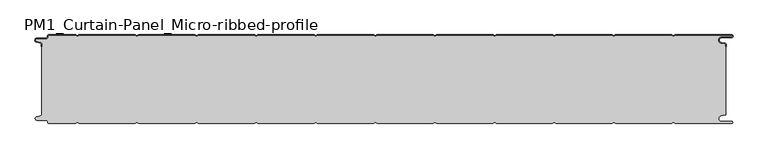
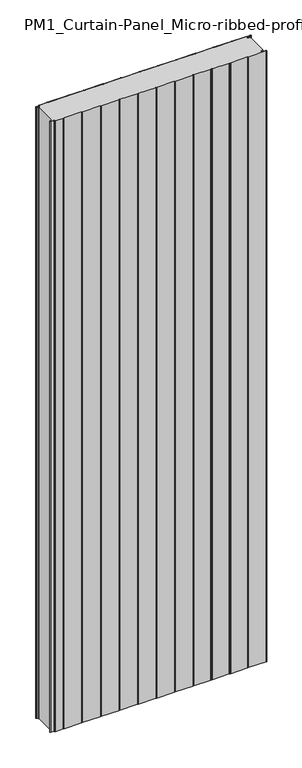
"""IFC4 building model written with IfcOpenShell, lengths in millimetres: plate geometry, PM1_Curtain-Panel_Micro-ribbed-profile : ACH_PM1_Acoustic-Sectioning-Panel_150M."""

from ifc_helpers import new_model, si_unit, point, frame, frame_2d, origin, origin_with_axes, place, context, project, spatial, polyline, circle_curve, trimmed, segment, composite_curve, outline, extrude, source, transform, mapped, element, save
from ifc_brep_helpers import plane_surface, cylinder_surface, revolved_surface, advanced_brep


def pm1_curtain_panel_micro_ribbed_profile_428cde19(model_context):
    return source(origin(), model_context, "Body", "SolidModel", [
        advanced_brep(
        [(-575.0, -15.878557, 3500.0), (-575.0, -20.0, 3500.0), (-574.2, -20.0, 3500.0), (-574.2, -15.878557, 3500.0), (-576.370137, -13.1503208, 3500.0), (-582.529863, -11.728236, 3500.0), (-581.9, -6.2, 3500.0), (-566.4, -6.2, 3500.0), (-563.6, -3.4, 3500.0), (-563.6, -2.0, 3500.0), (-562.4, -0.8, 3500.0), (-517.3143588, -0.8, 3500.0), (-514.4, -2.482606, 3500.0), (-511.4856412, -0.8, 3500.0), (-417.3143588, -0.8, 3500.0), (-414.4, -2.482606, 3500.0), (-411.4856412, -0.8, 3500.0), (-317.3143588, -0.8, 3500.0), (-314.4, -2.482606, 3500.0), (-311.4856412, -0.8, 3500.0), (-217.3143588, -0.8, 3500.0), (-214.4, -2.482606, 3500.0), (-211.4856412, -0.8, 3500.0), (-117.3143588, -0.8, 3500.0), (-114.4, -2.482606, 3500.0), (-111.4856412, -0.8, 3500.0), (-17.3143588, -0.8, 3500.0), (-14.4, -2.482606, 3500.0), (-11.4856412, -0.8, 3500.0), (82.6856412, -0.8, 3500.0), (85.6, -2.482606, 3500.0), (88.5143588, -0.8, 3500.0), (182.6856412, -0.8, 3500.0), (185.6, -2.482606, 3500.0), (188.5143588, -0.8, 3500.0), (282.6856412, -0.8, 3500.0), (285.6, -2.482606, 3500.0), (288.5143588, -0.8, 3500.0), (382.6856412, -0.8, 3500.0), (385.6, -2.482606, 3500.0), (388.5143588, -0.8, 3500.0), (482.6856412, -0.8, 3500.0), (485.6, -2.482606, 3500.0), (488.5143588, -0.8, 3500.0), (583.1, -0.8, 3500.0), (583.1, -4.2, 3500.0), (566.1, -4.2, 3500.0), (565.2664884, -13.7270771, 3500.0), (571.7125669, -14.8636953, 3500.0), (573.2, -16.6363492, 3500.0), (573.2, -20.0, 3500.0), (574.0, -20.0, 3500.0), (574.0, -16.6363492, 3500.0), (571.8514855, -14.0758491, 3500.0), (565.405407, -12.939231, 3500.0), (566.1, -5.0, 3500.0), (583.1, -5.0, 3500.0), (585.6, -2.5, 3500.0), (583.1, 0.0, 3500.0), (488.2999995, 0.0, 3500.0), (485.6, -1.5588455, 3500.0), (482.9000005, 0.0, 3500.0), (388.2999995, 0.0, 3500.0), (385.6, -1.5588455, 3500.0), (382.9000005, 0.0, 3500.0), (288.2999995, 0.0, 3500.0), (285.6, -1.5588455, 3500.0), (282.9000005, 0.0, 3500.0), (188.2999995, 0.0, 3500.0), (185.6, -1.5588455, 3500.0), (182.9000005, 0.0, 3500.0), (88.2999995, 0.0, 3500.0), (85.6, -1.5588455, 3500.0), (82.9000005, 0.0, 3500.0), (-11.7000005, 0.0, 3500.0), (-14.4, -1.5588455, 3500.0), (-17.0999995, 0.0, 3500.0), (-111.7000005, 0.0, 3500.0), (-114.4, -1.5588455, 3500.0), (-117.0999995, 0.0, 3500.0), (-211.7000005, 0.0, 3500.0), (-214.4, -1.5588455, 3500.0), (-217.0999995, 0.0, 3500.0), (-311.7000005, 0.0, 3500.0), (-314.4, -1.5588455, 3500.0), (-317.0999995, 0.0, 3500.0), (-411.7000005, 0.0, 3500.0), (-414.4, -1.5588455, 3500.0), (-417.0999995, 0.0, 3500.0), (-511.7000005, 0.0, 3500.0), (-514.4, -1.5588455, 3500.0), (-517.0999995, 0.0, 3500.0), (-562.4, 0.0, 3500.0), (-564.4, -2.0, 3500.0), (-564.4, -3.4, 3500.0), (-566.4, -5.4, 3500.0), (-581.9, -5.4, 3500.0), (-582.7098239, -12.5077322, 3500.0), (-576.5500979, -13.929817, 3500.0), (-575.0, -15.878557, 0.0), (-576.5500978, -13.9298169, 0.0), (-582.7098239, -12.507732, 0.0), (-581.9, -5.4, 0.0), (-566.4, -5.4, 0.0), (-564.4, -3.4, 0.0), (-564.4, -2.0, 0.0), (-562.4, 0.0, 0.0), (-517.0999995, 0.0, 0.0), (-514.4, -1.5588455, 0.0), (-511.7000005, 0.0, 0.0), (-417.0999995, 0.0, 0.0), (-414.4, -1.5588455, 0.0), (-411.7000005, 0.0, 0.0), (-317.0999995, 0.0, 0.0), (-314.4, -1.5588455, 0.0), (-311.7000005, 0.0, 0.0), (-217.0999995, 0.0, 0.0), (-214.4, -1.5588455, 0.0), (-211.7000005, 0.0, 0.0), (-117.0999995, 0.0, 0.0), (-114.4, -1.5588455, 0.0), (-111.7000005, 0.0, 0.0), (-17.0999995, 0.0, 0.0), (-14.4, -1.5588455, 0.0), (-11.7000005, 0.0, 0.0), (82.9000005, 0.0, 0.0), (85.6, -1.5588455, 0.0), (88.2999995, 0.0, 0.0), (182.9000005, 0.0, 0.0), (185.6, -1.5588455, 0.0), (188.2999995, 0.0, 0.0), (282.9000005, 0.0, 0.0), (285.6, -1.5588455, 0.0), (288.2999995, 0.0, 0.0), (382.9000005, 0.0, 0.0), (385.6, -1.5588455, 0.0), (388.2999995, 0.0, 0.0), (482.9000005, 0.0, 0.0), (485.6, -1.5588455, 0.0), (488.2999995, 0.0, 0.0), (583.1, 0.0, 0.0), (585.6, -2.5, 0.0), (583.1, -5.0, 0.0), (566.1, -5.0, 0.0), (565.405407, -12.939231, 0.0), (571.8514855, -14.0758491, 0.0), (574.0, -16.6363492, 0.0), (574.0, -20.0, 0.0), (573.2, -20.0, 0.0), (573.2, -16.6363492, 0.0), (571.7125669, -14.8636953, 0.0), (565.2664884, -13.7270772, 0.0), (566.1, -4.2, 0.0), (583.1, -4.2, 0.0), (583.1, -0.8, 0.0), (488.5143588, -0.8, 0.0), (485.6, -2.482606, 0.0), (482.6856412, -0.8, 0.0), (388.5143588, -0.8, 0.0), (385.6, -2.482606, 0.0), (382.6856412, -0.8, 0.0), (288.5143588, -0.8, 0.0), (285.6, -2.482606, 0.0), (282.6856412, -0.8, 0.0), (188.5143588, -0.8, 0.0), (185.6, -2.482606, 0.0), (182.6856412, -0.8, 0.0), (88.5143588, -0.8, 0.0), (85.6, -2.482606, 0.0), (82.6856412, -0.8, 0.0), (-11.4856412, -0.8, 0.0), (-14.4, -2.482606, 0.0), (-17.3143588, -0.8, 0.0), (-111.4856412, -0.8, 0.0), (-114.4, -2.482606, 0.0), (-117.3143588, -0.8, 0.0), (-211.4856412, -0.8, 0.0), (-214.4, -2.482606, 0.0), (-217.3143588, -0.8, 0.0), (-311.4856412, -0.8, 0.0), (-314.4, -2.482606, 0.0), (-317.3143588, -0.8, 0.0), (-411.4856412, -0.8, 0.0), (-414.4, -2.482606, 0.0), (-417.3143588, -0.8, 0.0), (-511.4856412, -0.8, 0.0), (-514.4, -2.482606, 0.0), (-517.3143588, -0.8, 0.0), (-562.4, -0.8, 0.0), (-563.6, -2.0, 0.0), (-563.6, -3.4, 0.0), (-566.4, -6.2, 0.0), (-581.9, -6.2, 0.0), (-582.529863, -11.7282362, 0.0), (-576.370137, -13.150321, 0.0), (-574.2, -15.878557, 0.0), (-574.2, -20.0, 0.0), (-575.0, -20.0, 0.0)],
        [
            (0, 1),
            (1, 2),
            (2, 3),
            (3, 4, circle_curve(frame((-577.0, -15.878557, 3500.0), z_axis=(0.0, 0.0, 1.0), x_axis=(1.0, 0.0, 0.0)), 2.8)),
            (4, 5),
            (5, 6, circle_curve(frame((-581.9, -9.0, 3500.0), z_axis=(0.0, 0.0, -1.0), x_axis=(1.0, 0.0, 0.0)), 2.8)),
            (6, 7),
            (7, 8, circle_curve(frame((-566.4, -3.4, 3500.0), z_axis=(0.0, 0.0, 1.0), x_axis=(1.0, 0.0, 0.0)), 2.8)),
            (8, 9),
            (9, 10, circle_curve(frame((-562.4, -2.0, 3500.0), z_axis=(0.0, 0.0, -1.0), x_axis=(1.0, 0.0, 0.0)), 1.2)),
            (10, 11),
            (11, 12),
            (12, 13),
            (13, 14),
            (14, 15),
            (15, 16),
            (16, 17),
            (17, 18),
            (18, 19),
            (19, 20),
            (20, 21),
            (21, 22),
            (22, 23),
            (23, 24),
            (24, 25),
            (25, 26),
            (26, 27),
            (27, 28),
            (28, 29),
            (29, 30),
            (30, 31),
            (31, 32),
            (32, 33),
            (33, 34),
            (34, 35),
            (35, 36),
            (36, 37),
            (37, 38),
            (38, 39),
            (39, 40),
            (40, 41),
            (41, 42),
            (42, 43),
            (43, 44),
            (44, 45, circle_curve(frame((583.1, -2.5, 3500.0), z_axis=(0.0, 0.0, -1.0), x_axis=(1.0, 0.0, 0.0)), 1.7)),
            (45, 46),
            (46, 47, circle_curve(frame((566.1, -9.0, 3500.0), z_axis=(0.0, 0.0, 1.0), x_axis=(1.0, 0.0, 0.0)), 4.8)),
            (47, 48),
            (48, 49, circle_curve(frame((571.4, -16.6363492, 3500.0), z_axis=(0.0, 0.0, -1.0), x_axis=(1.0, 0.0, 0.0)), 1.8)),
            (49, 50),
            (50, 51),
            (51, 52),
            (52, 53, circle_curve(frame((571.4, -16.6363492, 3500.0), z_axis=(0.0, 0.0, 1.0), x_axis=(1.0, 0.0, 0.0)), 2.6)),
            (53, 54),
            (54, 55, circle_curve(frame((566.1, -9.0, 3500.0), z_axis=(0.0, 0.0, -1.0), x_axis=(1.0, 0.0, 0.0)), 4.0)),
            (55, 56),
            (56, 57, circle_curve(frame((583.1, -2.5, 3500.0), z_axis=(0.0, 0.0, 1.0), x_axis=(1.0, 0.0, 0.0)), 2.5)),
            (57, 58, circle_curve(frame((583.1, -2.5, 3500.0), z_axis=(0.0, 0.0, 1.0), x_axis=(1.0, 0.0, 0.0)), 2.5)),
            (58, 59),
            (59, 60),
            (60, 61),
            (61, 62),
            (62, 63),
            (63, 64),
            (64, 65),
            (65, 66),
            (66, 67),
            (67, 68),
            (68, 69),
            (69, 70),
            (70, 71),
            (71, 72),
            (72, 73),
            (73, 74),
            (74, 75),
            (75, 76),
            (76, 77),
            (77, 78),
            (78, 79),
            (79, 80),
            (80, 81),
            (81, 82),
            (82, 83),
            (83, 84),
            (84, 85),
            (85, 86),
            (86, 87),
            (87, 88),
            (88, 89),
            (89, 90),
            (90, 91),
            (91, 92),
            (92, 93, circle_curve(frame((-562.4, -2.0, 3500.0), z_axis=(0.0, 0.0, 1.0), x_axis=(1.0, 0.0, 0.0)), 2.0)),
            (93, 94),
            (94, 95, circle_curve(frame((-566.4, -3.4, 3500.0), z_axis=(0.0, 0.0, -1.0), x_axis=(1.0, 0.0, 0.0)), 2.0)),
            (95, 96),
            (96, 97, circle_curve(frame((-581.9, -9.0, 3500.0), z_axis=(0.0, 0.0, 1.0), x_axis=(1.0, 0.0, 0.0)), 3.6)),
            (97, 98),
            (98, 0, circle_curve(frame((-577.0, -15.878557, 3500.0), z_axis=(0.0, 0.0, -1.0), x_axis=(1.0, 0.0, 0.0)), 2.0)),
            (99, 100, circle_curve(frame((-577.0, -15.878557, 0.0), z_axis=(0.0, 0.0, 1.0), x_axis=(1.0, 0.0, 0.0)), 2.0)),
            (100, 101),
            (101, 102, circle_curve(frame((-581.9, -9.0, 0.0), z_axis=(0.0, 0.0, -1.0), x_axis=(1.0, 0.0, 0.0)), 3.6)),
            (102, 103),
            (103, 104, circle_curve(frame((-566.4, -3.4, 0.0), z_axis=(0.0, 0.0, 1.0), x_axis=(1.0, 0.0, 0.0)), 2.0)),
            (104, 105),
            (105, 106, circle_curve(frame((-562.4, -2.0, 0.0), z_axis=(0.0, 0.0, -1.0), x_axis=(1.0, 0.0, 0.0)), 2.0)),
            (106, 107),
            (107, 108),
            (108, 109),
            (109, 110),
            (110, 111),
            (111, 112),
            (112, 113),
            (113, 114),
            (114, 115),
            (115, 116),
            (116, 117),
            (117, 118),
            (118, 119),
            (119, 120),
            (120, 121),
            (121, 122),
            (122, 123),
            (123, 124),
            (124, 125),
            (125, 126),
            (126, 127),
            (127, 128),
            (128, 129),
            (129, 130),
            (130, 131),
            (131, 132),
            (132, 133),
            (133, 134),
            (134, 135),
            (135, 136),
            (136, 137),
            (137, 138),
            (138, 139),
            (139, 140),
            (140, 141, circle_curve(frame((583.1, -2.5, 0.0), z_axis=(0.0, 0.0, -1.0), x_axis=(1.0, 0.0, 0.0)), 2.5)),
            (141, 142, circle_curve(frame((583.1, -2.5, 0.0), z_axis=(0.0, 0.0, -1.0), x_axis=(1.0, 0.0, 0.0)), 2.5)),
            (142, 143),
            (143, 144, circle_curve(frame((566.1, -9.0, 0.0), z_axis=(0.0, 0.0, 1.0), x_axis=(1.0, 0.0, 0.0)), 4.0)),
            (144, 145),
            (145, 146, circle_curve(frame((571.4, -16.6363492, 0.0), z_axis=(0.0, 0.0, -1.0), x_axis=(1.0, 0.0, 0.0)), 2.6)),
            (146, 147),
            (147, 148),
            (148, 149),
            (149, 150, circle_curve(frame((571.4, -16.6363492, 0.0), z_axis=(0.0, 0.0, 1.0), x_axis=(1.0, 0.0, 0.0)), 1.8)),
            (150, 151),
            (151, 152, circle_curve(frame((566.1, -9.0, 0.0), z_axis=(0.0, 0.0, -1.0), x_axis=(1.0, 0.0, 0.0)), 4.8)),
            (152, 153),
            (153, 154, circle_curve(frame((583.1, -2.5, 0.0), z_axis=(0.0, 0.0, 1.0), x_axis=(1.0, 0.0, 0.0)), 1.7)),
            (154, 155),
            (155, 156),
            (156, 157),
            (157, 158),
            (158, 159),
            (159, 160),
            (160, 161),
            (161, 162),
            (162, 163),
            (163, 164),
            (164, 165),
            (165, 166),
            (166, 167),
            (167, 168),
            (168, 169),
            (169, 170),
            (170, 171),
            (171, 172),
            (172, 173),
            (173, 174),
            (174, 175),
            (175, 176),
            (176, 177),
            (177, 178),
            (178, 179),
            (179, 180),
            (180, 181),
            (181, 182),
            (182, 183),
            (183, 184),
            (184, 185),
            (185, 186),
            (186, 187),
            (187, 188),
            (188, 189, circle_curve(frame((-562.4, -2.0, 0.0), z_axis=(0.0, 0.0, 1.0), x_axis=(1.0, 0.0, 0.0)), 1.2)),
            (189, 190),
            (190, 191, circle_curve(frame((-566.4, -3.4, 0.0), z_axis=(0.0, 0.0, -1.0), x_axis=(1.0, 0.0, 0.0)), 2.8)),
            (191, 192),
            (192, 193, circle_curve(frame((-581.9, -9.0, 0.0), z_axis=(0.0, 0.0, 1.0), x_axis=(1.0, 0.0, 0.0)), 2.8)),
            (193, 194),
            (194, 195, circle_curve(frame((-577.0, -15.878557, 0.0), z_axis=(0.0, 0.0, -1.0), x_axis=(1.0, 0.0, 0.0)), 2.8)),
            (195, 196),
            (196, 197),
            (197, 99),
            (0, 99),
            (197, 1),
            (196, 2),
            (195, 3),
            (194, 4),
            (193, 5),
            (192, 6),
            (191, 7),
            (190, 8),
            (189, 9),
            (188, 10),
            (187, 11),
            (186, 12),
            (185, 13),
            (184, 14),
            (183, 15),
            (182, 16),
            (181, 17),
            (180, 18),
            (179, 19),
            (178, 20),
            (177, 21),
            (176, 22),
            (175, 23),
            (174, 24),
            (173, 25),
            (172, 26),
            (171, 27),
            (170, 28),
            (169, 29),
            (168, 30),
            (167, 31),
            (166, 32),
            (165, 33),
            (164, 34),
            (163, 35),
            (162, 36),
            (161, 37),
            (160, 38),
            (159, 39),
            (158, 40),
            (157, 41),
            (156, 42),
            (155, 43),
            (154, 44),
            (153, 45),
            (152, 46),
            (151, 47),
            (150, 48),
            (149, 49),
            (148, 50),
            (147, 51),
            (146, 52),
            (145, 53),
            (144, 54),
            (143, 55),
            (142, 56),
            (140, 58),
            (139, 59),
            (138, 60),
            (137, 61),
            (136, 62),
            (135, 63),
            (134, 64),
            (133, 65),
            (132, 66),
            (131, 67),
            (130, 68),
            (129, 69),
            (128, 70),
            (127, 71),
            (126, 72),
            (125, 73),
            (124, 74),
            (123, 75),
            (122, 76),
            (121, 77),
            (120, 78),
            (119, 79),
            (118, 80),
            (117, 81),
            (116, 82),
            (115, 83),
            (114, 84),
            (113, 85),
            (112, 86),
            (111, 87),
            (110, 88),
            (109, 89),
            (108, 90),
            (107, 91),
            (106, 92),
            (105, 93),
            (104, 94),
            (103, 95),
            (102, 96),
            (101, 97),
            (100, 98),
        ],
        [
            plane_surface(frame((-575.0, 0.0, 3500.0), z_axis=(0.0, 0.0, 1.0), x_axis=(0.0, 1.0, 0.0))),
            plane_surface(frame((-575.0, 0.0, 0.0), z_axis=(0.0, 0.0, -1.0), x_axis=(0.0, 1.0, 0.0))),
            plane_surface(frame((-575.0, -15.878557, 3500.0), z_axis=(-1.0, 0.0, 0.0), x_axis=(0.0, 0.0, -1.0))),
            plane_surface(frame((-575.0, -20.0, 3500.0), z_axis=(0.0, -1.0, 0.0), x_axis=(0.0, 0.0, -1.0))),
            plane_surface(frame((-574.2, -20.0, 3500.0), z_axis=(1.0, 0.0, 0.0), x_axis=(0.0, 0.0, -1.0))),
            cylinder_surface(frame((-577.0, -15.878557, 3500.0), z_axis=(0.0, 0.0, 1.0), x_axis=(1.0, 0.0, 0.0)), 2.8),
            plane_surface(frame((-576.370137, -13.150321, 3500.0), z_axis=(0.22495108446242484, 0.9743700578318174, 0.0), x_axis=(0.0, 0.0, -1.0))),
            revolved_surface(polyline([(-579.1, -9.0, 0.0), (-579.1, -9.0, 3500.0)]), (-581.9, -9.0, 3500.0), (0.0, 0.0, -1.0)),
            plane_surface(frame((-581.9, -6.2, 3500.0), z_axis=(0.0, -1.0, 0.0), x_axis=(0.0, 0.0, -1.0))),
            cylinder_surface(frame((-566.4, -3.4, 3500.0), z_axis=(0.0, 0.0, 1.0), x_axis=(1.0, 0.0, 0.0)), 2.8),
            plane_surface(frame((-563.6, -3.4, 3500.0), z_axis=(1.0, 0.0, 0.0), x_axis=(0.0, 0.0, -1.0))),
            revolved_surface(polyline([(-561.1999999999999, -2.0, 0.0), (-561.1999999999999, -2.0, 3500.0)]), (-562.4, -2.0, 3500.0), (0.0, 0.0, -1.0)),
            plane_surface(frame((-562.4, -0.8, 3500.0), z_axis=(0.0, -1.0, 0.0), x_axis=(0.0, 0.0, -1.0))),
            plane_surface(frame((-517.3143588, -0.8, 3500.0), z_axis=(-0.5000000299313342, -0.8660253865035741, 0.0), x_axis=(0.0, 0.0, -1.0))),
            plane_surface(frame((-514.4, -2.482606, 3500.0), z_axis=(0.5000000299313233, -0.8660253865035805, 0.0), x_axis=(0.0, 0.0, -1.0))),
            plane_surface(frame((-511.4856412, -0.8, 3500.0), z_axis=(0.0, -1.0, 0.0), x_axis=(0.0, 0.0, -1.0))),
            plane_surface(frame((-417.3143588, -0.8, 3500.0), z_axis=(-0.5000000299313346, -0.8660253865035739, 0.0), x_axis=(0.0, 0.0, -1.0))),
            plane_surface(frame((-414.4, -2.482606, 3500.0), z_axis=(0.5000000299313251, -0.8660253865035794, 0.0), x_axis=(0.0, 0.0, -1.0))),
            plane_surface(frame((-411.4856412, -0.8, 3500.0), z_axis=(0.0, -1.0, 0.0), x_axis=(0.0, 0.0, -1.0))),
            plane_surface(frame((-317.3143588, -0.8, 3500.0), z_axis=(-0.5000000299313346, -0.866025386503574, 0.0), x_axis=(0.0, 0.0, -1.0))),
            plane_surface(frame((-314.4, -2.482606, 3500.0), z_axis=(0.5000000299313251, -0.8660253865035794, 0.0), x_axis=(0.0, 0.0, -1.0))),
            plane_surface(frame((-311.4856412, -0.8, 3500.0), z_axis=(0.0, -1.0, 0.0), x_axis=(0.0, 0.0, -1.0))),
            plane_surface(frame((-217.3143588, -0.8, 3500.0), z_axis=(-0.5000000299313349, -0.8660253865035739, 0.0), x_axis=(0.0, 0.0, -1.0))),
            plane_surface(frame((-214.4, -2.482606, 3500.0), z_axis=(0.5000000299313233, -0.8660253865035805, 0.0), x_axis=(0.0, 0.0, -1.0))),
            plane_surface(frame((-211.4856412, -0.8, 3500.0), z_axis=(0.0, -1.0, 0.0), x_axis=(0.0, 0.0, -1.0))),
            plane_surface(frame((-117.3143588, -0.8, 3500.0), z_axis=(-0.5000000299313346, -0.866025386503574, 0.0), x_axis=(0.0, 0.0, -1.0))),
            plane_surface(frame((-114.4, -2.482606, 3500.0), z_axis=(0.5000000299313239, -0.8660253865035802, 0.0), x_axis=(0.0, 0.0, -1.0))),
            plane_surface(frame((-111.4856412, -0.8, 3500.0), z_axis=(0.0, -1.0, 0.0), x_axis=(0.0, 0.0, -1.0))),
            plane_surface(frame((-17.3143588, -0.8, 3500.0), z_axis=(-0.5000000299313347, -0.8660253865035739, 0.0), x_axis=(0.0, 0.0, -1.0))),
            plane_surface(frame((-14.4, -2.482606, 3500.0), z_axis=(0.5000000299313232, -0.8660253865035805, 0.0), x_axis=(0.0, 0.0, -1.0))),
            plane_surface(frame((-11.4856412, -0.8, 3500.0), z_axis=(0.0, -1.0, 0.0), x_axis=(0.0, 0.0, -1.0))),
            plane_surface(frame((82.6856412, -0.8, 3500.0), z_axis=(-0.5000000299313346, -0.866025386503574, 0.0), x_axis=(0.0, 0.0, -1.0))),
            plane_surface(frame((85.6, -2.482606, 3500.0), z_axis=(0.5000000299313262, -0.8660253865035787, 0.0), x_axis=(0.0, 0.0, -1.0))),
            plane_surface(frame((88.5143588, -0.8, 3500.0), z_axis=(0.0, -1.0, 0.0), x_axis=(0.0, 0.0, -1.0))),
            plane_surface(frame((182.6856412, -0.8, 3500.0), z_axis=(-0.5000000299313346, -0.8660253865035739, 0.0), x_axis=(0.0, 0.0, -1.0))),
            plane_surface(frame((185.6, -2.482606, 3500.0), z_axis=(0.5000000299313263, -0.8660253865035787, 0.0), x_axis=(0.0, 0.0, -1.0))),
            plane_surface(frame((188.5143588, -0.8, 3500.0), z_axis=(0.0, -1.0, 0.0), x_axis=(0.0, 0.0, -1.0))),
            plane_surface(frame((282.6856412, -0.8, 3500.0), z_axis=(-0.5000000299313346, -0.8660253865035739, 0.0), x_axis=(0.0, 0.0, -1.0))),
            plane_surface(frame((285.6, -2.482606, 3500.0), z_axis=(0.5000000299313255, -0.8660253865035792, 0.0), x_axis=(0.0, 0.0, -1.0))),
            plane_surface(frame((288.5143588, -0.8, 3500.0), z_axis=(0.0, -1.0, 0.0), x_axis=(0.0, 0.0, -1.0))),
            plane_surface(frame((382.6856412, -0.8, 3500.0), z_axis=(-0.5000000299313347, -0.8660253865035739, 0.0), x_axis=(0.0, 0.0, -1.0))),
            plane_surface(frame((385.6, -2.482606, 3500.0), z_axis=(0.5000000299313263, -0.8660253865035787, 0.0), x_axis=(0.0, 0.0, -1.0))),
            plane_surface(frame((388.5143588, -0.8, 3500.0), z_axis=(0.0, -1.0, 0.0), x_axis=(0.0, 0.0, -1.0))),
            plane_surface(frame((482.6856412, -0.8, 3500.0), z_axis=(-0.5000000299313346, -0.866025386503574, 0.0), x_axis=(0.0, 0.0, -1.0))),
            plane_surface(frame((485.6, -2.482606, 3500.0), z_axis=(0.5000000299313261, -0.8660253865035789, 0.0), x_axis=(0.0, 0.0, -1.0))),
            plane_surface(frame((535.6, -0.8, 3500.0), z_axis=(0.0, -1.0, 0.0), x_axis=(0.0, 0.0, -1.0))),
            revolved_surface(polyline([(584.8000000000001, -2.5, 0.0), (584.8000000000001, -2.5, 3500.0)]), (583.1, -2.5, 3500.0), (0.0, 0.0, -1.0)),
            plane_surface(frame((583.1, -4.2, 3500.0), z_axis=(0.0, 1.0, 0.0), x_axis=(0.0, 0.0, -1.0))),
            cylinder_surface(frame((566.1, -9.0, 3500.0), z_axis=(0.0, 0.0, 1.0), x_axis=(1.0, 0.0, 0.0)), 4.8),
            plane_surface(frame((565.2664884, -13.7270772, 3500.0), z_axis=(-0.17364825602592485, -0.9848077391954, 0.0), x_axis=(0.0, 0.0, -1.0))),
            revolved_surface(polyline([(573.1999999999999, -16.6363492, 0.0), (573.1999999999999, -16.6363492, 3500.0)]), (571.4, -16.6363492, 3500.0), (0.0, 0.0, -1.0)),
            plane_surface(frame((573.2, -16.6363492, 3500.0), z_axis=(-1.0, 0.0, 0.0), x_axis=(0.0, 0.0, -1.0))),
            plane_surface(frame((573.2, -20.0, 3500.0), z_axis=(0.0, -1.0, 0.0), x_axis=(0.0, 0.0, -1.0))),
            plane_surface(frame((574.0, -20.0, 3500.0), z_axis=(1.0, 0.0, 0.0), x_axis=(0.0, 0.0, -1.0))),
            cylinder_surface(frame((571.4, -16.6363492, 3500.0), z_axis=(0.0, 0.0, 1.0), x_axis=(1.0, 0.0, 0.0)), 2.6),
            plane_surface(frame((571.8514855, -14.0758491, 3500.0), z_axis=(0.1736482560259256, 0.9848077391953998, 0.0), x_axis=(0.0, 0.0, -1.0))),
            revolved_surface(polyline([(570.1, -9.0, 0.0), (570.1, -9.0, 3500.0)]), (566.1, -9.0, 3500.0), (0.0, 0.0, -1.0)),
            plane_surface(frame((566.1, -5.0, 3500.0), z_axis=(0.0, -1.0, 0.0), x_axis=(0.0, 0.0, -1.0))),
            cylinder_surface(frame((583.1, -2.5, 3500.0), z_axis=(0.0, 0.0, 1.0), x_axis=(1.0, 0.0, 0.0)), 2.5),
            plane_surface(frame((535.6, 0.0, 3500.0), z_axis=(0.0, 1.0, 0.0), x_axis=(0.0, 0.0, -1.0))),
            plane_surface(frame((488.2999995, 0.0, 3500.0), z_axis=(-0.5000000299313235, 0.8660253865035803, 0.0), x_axis=(0.0, 0.0, -1.0))),
            plane_surface(frame((485.6, -1.5588455, 3500.0), z_axis=(0.5000000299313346, 0.8660253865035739, 0.0), x_axis=(0.0, 0.0, -1.0))),
            plane_surface(frame((482.9000005, 0.0, 3500.0), z_axis=(0.0, 1.0, 0.0), x_axis=(0.0, 0.0, -1.0))),
            plane_surface(frame((388.2999995, 0.0, 3500.0), z_axis=(-0.5000000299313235, 0.8660253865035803, 0.0), x_axis=(0.0, 0.0, -1.0))),
            plane_surface(frame((385.6, -1.5588455, 3500.0), z_axis=(0.5000000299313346, 0.8660253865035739, 0.0), x_axis=(0.0, 0.0, -1.0))),
            plane_surface(frame((382.9000005, 0.0, 3500.0), z_axis=(0.0, 1.0, 0.0), x_axis=(0.0, 0.0, -1.0))),
            plane_surface(frame((288.2999995, 0.0, 3500.0), z_axis=(-0.5000000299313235, 0.8660253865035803, 0.0), x_axis=(0.0, 0.0, -1.0))),
            plane_surface(frame((285.6, -1.5588455, 3500.0), z_axis=(0.5000000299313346, 0.8660253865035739, 0.0), x_axis=(0.0, 0.0, -1.0))),
            plane_surface(frame((282.9000005, 0.0, 3500.0), z_axis=(0.0, 1.0, 0.0), x_axis=(0.0, 0.0, -1.0))),
            plane_surface(frame((188.2999995, 0.0, 3500.0), z_axis=(-0.5000000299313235, 0.8660253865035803, 0.0), x_axis=(0.0, 0.0, -1.0))),
            plane_surface(frame((185.6, -1.5588455, 3500.0), z_axis=(0.5000000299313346, 0.8660253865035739, 0.0), x_axis=(0.0, 0.0, -1.0))),
            plane_surface(frame((182.9000005, 0.0, 3500.0), z_axis=(0.0, 1.0, 0.0), x_axis=(0.0, 0.0, -1.0))),
            plane_surface(frame((88.2999995, 0.0, 3500.0), z_axis=(-0.5000000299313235, 0.8660253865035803, 0.0), x_axis=(0.0, 0.0, -1.0))),
            plane_surface(frame((85.6, -1.5588455, 3500.0), z_axis=(0.5000000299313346, 0.8660253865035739, 0.0), x_axis=(0.0, 0.0, -1.0))),
            plane_surface(frame((82.9000005, 0.0, 3500.0), z_axis=(0.0, 1.0, 0.0), x_axis=(0.0, 0.0, -1.0))),
            plane_surface(frame((-11.7000005, 0.0, 3500.0), z_axis=(-0.5000000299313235, 0.8660253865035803, 0.0), x_axis=(0.0, 0.0, -1.0))),
            plane_surface(frame((-14.4, -1.5588455, 3500.0), z_axis=(0.5000000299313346, 0.8660253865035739, 0.0), x_axis=(0.0, 0.0, -1.0))),
            plane_surface(frame((-17.0999995, 0.0, 3500.0), z_axis=(0.0, 1.0, 0.0), x_axis=(0.0, 0.0, -1.0))),
            plane_surface(frame((-111.7000005, 0.0, 3500.0), z_axis=(-0.5000000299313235, 0.8660253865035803, 0.0), x_axis=(0.0, 0.0, -1.0))),
            plane_surface(frame((-114.4, -1.5588455, 3500.0), z_axis=(0.5000000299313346, 0.8660253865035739, 0.0), x_axis=(0.0, 0.0, -1.0))),
            plane_surface(frame((-117.0999995, 0.0, 3500.0), z_axis=(0.0, 1.0, 0.0), x_axis=(0.0, 0.0, -1.0))),
            plane_surface(frame((-211.7000005, 0.0, 3500.0), z_axis=(-0.5000000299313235, 0.8660253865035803, 0.0), x_axis=(0.0, 0.0, -1.0))),
            plane_surface(frame((-214.4, -1.5588455, 3500.0), z_axis=(0.5000000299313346, 0.8660253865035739, 0.0), x_axis=(0.0, 0.0, -1.0))),
            plane_surface(frame((-217.0999995, 0.0, 3500.0), z_axis=(0.0, 1.0, 0.0), x_axis=(0.0, 0.0, -1.0))),
            plane_surface(frame((-311.7000005, 0.0, 3500.0), z_axis=(-0.5000000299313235, 0.8660253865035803, 0.0), x_axis=(0.0, 0.0, -1.0))),
            plane_surface(frame((-314.4, -1.5588455, 3500.0), z_axis=(0.5000000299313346, 0.8660253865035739, 0.0), x_axis=(0.0, 0.0, -1.0))),
            plane_surface(frame((-317.0999995, 0.0, 3500.0), z_axis=(0.0, 1.0, 0.0), x_axis=(0.0, 0.0, -1.0))),
            plane_surface(frame((-411.7000005, 0.0, 3500.0), z_axis=(-0.5000000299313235, 0.8660253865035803, 0.0), x_axis=(0.0, 0.0, -1.0))),
            plane_surface(frame((-414.4, -1.5588455, 3500.0), z_axis=(0.5000000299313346, 0.8660253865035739, 0.0), x_axis=(0.0, 0.0, -1.0))),
            plane_surface(frame((-417.0999995, 0.0, 3500.0), z_axis=(0.0, 1.0, 0.0), x_axis=(0.0, 0.0, -1.0))),
            plane_surface(frame((-511.7000005, 0.0, 3500.0), z_axis=(-0.5000000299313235, 0.8660253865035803, 0.0), x_axis=(0.0, 0.0, -1.0))),
            plane_surface(frame((-514.4, -1.5588455, 3500.0), z_axis=(0.5000000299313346, 0.8660253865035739, 0.0), x_axis=(0.0, 0.0, -1.0))),
            plane_surface(frame((-517.0999995, 0.0, 3500.0), z_axis=(0.0, 1.0, 0.0), x_axis=(0.0, 0.0, -1.0))),
            cylinder_surface(frame((-562.4, -2.0, 3500.0), z_axis=(0.0, 0.0, 1.0), x_axis=(1.0, 0.0, 0.0)), 2.0),
            plane_surface(frame((-564.4, -2.0, 3500.0), z_axis=(-1.0, 0.0, 0.0), x_axis=(0.0, 0.0, -1.0))),
            revolved_surface(polyline([(-564.4, -3.4, 0.0), (-564.4, -3.4, 3500.0)]), (-566.4, -3.4, 3500.0), (0.0, 0.0, -1.0)),
            plane_surface(frame((-566.4, -5.4, 3500.0), z_axis=(0.0, 1.0, 0.0), x_axis=(0.0, 0.0, -1.0))),
            cylinder_surface(frame((-581.9, -9.0, 3500.0), z_axis=(0.0, 0.0, 1.0), x_axis=(1.0, 0.0, 0.0)), 3.6),
            plane_surface(frame((-582.7098239, -12.507732, 3500.0), z_axis=(-0.22495108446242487, -0.9743700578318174, 0.0), x_axis=(0.0, 0.0, -1.0))),
            revolved_surface(polyline([(-575.0, -15.878557, 0.0), (-575.0, -15.878557, 3500.0)]), (-577.0, -15.878557, 3500.0), (0.0, 0.0, -1.0)),
        ],
        [
            (0, [[1, 2, 3, 4, 5, 6, 7, 8, 9, 10, 11, 12, 13, 14, 15, 16, 17, 18, 19, 20, 21, 22, 23, 24, 25, 26, 27, 28, 29, 30, 31, 32, 33, 34, 35, 36, 37, 38, 39, 40, 41, 42, 43, 44, 45, 46, 47, 48, 49, 50, 51, 52, 53, 54, 55, 56, 57, 58, 59, 60, 61, 62, 63, 64, 65, 66, 67, 68, 69, 70, 71, 72, 73, 74, 75, 76, 77, 78, 79, 80, 81, 82, 83, 84, 85, 86, 87, 88, 89, 90, 91, 92, 93, 94, 95, 96, 97, 98, 99]]),
            (1, [[100, 101, 102, 103, 104, 105, 106, 107, 108, 109, 110, 111, 112, 113, 114, 115, 116, 117, 118, 119, 120, 121, 122, 123, 124, 125, 126, 127, 128, 129, 130, 131, 132, 133, 134, 135, 136, 137, 138, 139, 140, 141, 142, 143, 144, 145, 146, 147, 148, 149, 150, 151, 152, 153, 154, 155, 156, 157, 158, 159, 160, 161, 162, 163, 164, 165, 166, 167, 168, 169, 170, 171, 172, 173, 174, 175, 176, 177, 178, 179, 180, 181, 182, 183, 184, 185, 186, 187, 188, 189, 190, 191, 192, 193, 194, 195, 196, 197, 198]]),
            (2, [[-1, 199, -198, 200]]),
            (3, [[-2, -200, -197, 201]]),
            (4, [[-3, -201, -196, 202]]),
            (5, [[-4, -202, -195, 203]]),
            (6, [[-5, -203, -194, 204]]),
            (7, [[-6, -204, -193, 205]]),
            (8, [[-7, -205, -192, 206]]),
            (9, [[-8, -206, -191, 207]]),
            (10, [[-9, -207, -190, 208]]),
            (11, [[-10, -208, -189, 209]]),
            (12, [[-11, -209, -188, 210]]),
            (13, [[-12, -210, -187, 211]]),
            (14, [[-13, -211, -186, 212]]),
            (15, [[-14, -212, -185, 213]]),
            (16, [[-15, -213, -184, 214]]),
            (17, [[-16, -214, -183, 215]]),
            (18, [[-17, -215, -182, 216]]),
            (19, [[-18, -216, -181, 217]]),
            (20, [[-19, -217, -180, 218]]),
            (21, [[-20, -218, -179, 219]]),
            (22, [[-21, -219, -178, 220]]),
            (23, [[-22, -220, -177, 221]]),
            (24, [[-23, -221, -176, 222]]),
            (25, [[-24, -222, -175, 223]]),
            (26, [[-25, -223, -174, 224]]),
            (27, [[-26, -224, -173, 225]]),
            (28, [[-27, -225, -172, 226]]),
            (29, [[-28, -226, -171, 227]]),
            (30, [[-29, -227, -170, 228]]),
            (31, [[-30, -228, -169, 229]]),
            (32, [[-31, -229, -168, 230]]),
            (33, [[-32, -230, -167, 231]]),
            (34, [[-33, -231, -166, 232]]),
            (35, [[-34, -232, -165, 233]]),
            (36, [[-35, -233, -164, 234]]),
            (37, [[-36, -234, -163, 235]]),
            (38, [[-37, -235, -162, 236]]),
            (39, [[-38, -236, -161, 237]]),
            (40, [[-39, -237, -160, 238]]),
            (41, [[-40, -238, -159, 239]]),
            (42, [[-41, -239, -158, 240]]),
            (43, [[-42, -240, -157, 241]]),
            (44, [[-43, -241, -156, 242]]),
            (45, [[-44, -242, -155, 243]]),
            (46, [[-45, -243, -154, 244]]),
            (47, [[-46, -244, -153, 245]]),
            (48, [[-47, -245, -152, 246]]),
            (49, [[-48, -246, -151, 247]]),
            (50, [[-49, -247, -150, 248]]),
            (51, [[-50, -248, -149, 249]]),
            (52, [[-51, -249, -148, 250]]),
            (53, [[-52, -250, -147, 251]]),
            (54, [[-53, -251, -146, 252]]),
            (55, [[-54, -252, -145, 253]]),
            (56, [[-55, -253, -144, 254]]),
            (57, [[-56, -254, -143, 255]]),
            (58, [[-255, -142, -141, 256, -58, -57]]),
            (59, [[-59, -256, -140, 257]]),
            (60, [[-60, -257, -139, 258]]),
            (61, [[-61, -258, -138, 259]]),
            (62, [[-62, -259, -137, 260]]),
            (63, [[-63, -260, -136, 261]]),
            (64, [[-64, -261, -135, 262]]),
            (65, [[-65, -262, -134, 263]]),
            (66, [[-66, -263, -133, 264]]),
            (67, [[-67, -264, -132, 265]]),
            (68, [[-68, -265, -131, 266]]),
            (69, [[-69, -266, -130, 267]]),
            (70, [[-70, -267, -129, 268]]),
            (71, [[-71, -268, -128, 269]]),
            (72, [[-72, -269, -127, 270]]),
            (73, [[-73, -270, -126, 271]]),
            (74, [[-74, -271, -125, 272]]),
            (75, [[-75, -272, -124, 273]]),
            (76, [[-76, -273, -123, 274]]),
            (77, [[-77, -274, -122, 275]]),
            (78, [[-78, -275, -121, 276]]),
            (79, [[-79, -276, -120, 277]]),
            (80, [[-80, -277, -119, 278]]),
            (81, [[-81, -278, -118, 279]]),
            (82, [[-82, -279, -117, 280]]),
            (83, [[-83, -280, -116, 281]]),
            (84, [[-84, -281, -115, 282]]),
            (85, [[-85, -282, -114, 283]]),
            (86, [[-86, -283, -113, 284]]),
            (87, [[-87, -284, -112, 285]]),
            (88, [[-88, -285, -111, 286]]),
            (89, [[-89, -286, -110, 287]]),
            (90, [[-90, -287, -109, 288]]),
            (91, [[-91, -288, -108, 289]]),
            (92, [[-92, -289, -107, 290]]),
            (93, [[-93, -290, -106, 291]]),
            (94, [[-94, -291, -105, 292]]),
            (95, [[-95, -292, -104, 293]]),
            (96, [[-96, -293, -103, 294]]),
            (97, [[-97, -294, -102, 295]]),
            (98, [[-98, -295, -101, 296]]),
            (99, [[-99, -296, -100, -199]]),
        ],
    ),
        extrude(outline(composite_curve([segment(polyline([(-574.2, -134.1214426), (-574.2, -15.8785573)]), True, "CONTINUOUS"), segment(trimmed(circle_curve(frame_2d((-577.0, -15.8785573)), 2.8), [point((-574.2, -15.8785573))], [point((-576.370137, -13.1503212))], True, "CARTESIAN"), True, "CONTINUOUS"), segment(polyline([(-576.370137, -13.1503212), (-582.5298631, -11.7282362)]), True, "CONTINUOUS"), segment(trimmed(circle_curve(frame_2d((-581.9, -9.0)), 2.8), [point((-582.5298631, -11.7282362))], [point((-581.9, -6.2))], False, "CARTESIAN"), True, "CONTINUOUS"), segment(polyline([(-581.9, -6.2), (-566.4000001, -6.2)]), True, "CONTINUOUS"), segment(trimmed(circle_curve(frame_2d((-566.4000001, -3.4)), 2.8), [point((-566.4000001, -6.2))], [point((-563.6000001, -3.4))], True, "CARTESIAN"), True, "CONTINUOUS"), segment(polyline([(-563.6000001, -3.4), (-563.6000001, -2.0)]), True, "CONTINUOUS"), segment(trimmed(circle_curve(frame_2d((-562.4000001, -2.0)), 1.2), [point((-563.6000001, -2.0))], [point((-562.4000001, -0.8))], False, "CARTESIAN"), True, "CONTINUOUS"), segment(polyline([(-562.4000001, -0.8), (-517.3143589, -0.8), (-514.4000001, -2.482606), (-511.4856412, -0.8), (-417.3143589, -0.8), (-414.4000001, -2.482606), (-411.4856412, -0.8), (-317.3143589, -0.8), (-314.4000001, -2.482606), (-311.4856412, -0.8), (-217.3143589, -0.8), (-214.4000001, -2.482606), (-211.4856412, -0.8), (-117.3143589, -0.8), (-114.4000001, -2.482606), (-111.4856412, -0.8), (-17.3143589, -0.8), (-14.4000001, -2.482606), (-11.4856412, -0.8), (82.6856411, -0.8), (85.5999999, -2.482606), (88.5143588, -0.8), (182.6856411, -0.8), (185.5999999, -2.482606), (188.5143588, -0.8), (282.6856411, -0.8), (285.5999999, -2.482606), (288.5143588, -0.8), (382.6856411, -0.8), (385.5999999, -2.482606), (388.5143588, -0.8), (482.6856411, -0.8), (485.6, -2.482606), (488.5143588, -0.8), (583.1, -0.8)]), True, "CONTINUOUS"), segment(trimmed(circle_curve(frame_2d((583.1, -2.5)), 1.7), [point((583.1, -0.8))], [point((583.1, -4.2))], False, "CARTESIAN"), True, "CONTINUOUS"), segment(polyline([(583.1, -4.2), (566.1, -4.2)]), True, "CONTINUOUS"), segment(trimmed(circle_curve(frame_2d((566.1, -9.0)), 4.8), [point((566.1, -4.2))], [point((565.2664883, -13.7270771))], True, "CARTESIAN"), True, "CONTINUOUS"), segment(polyline([(565.2664883, -13.7270771), (571.7125668, -14.8636953)]), True, "CONTINUOUS"), segment(trimmed(circle_curve(frame_2d((571.4, -16.6363492)), 1.8), [point((571.7125668, -14.8636953))], [point((573.2, -16.6363492))], False, "CARTESIAN"), True, "CONTINUOUS"), segment(polyline([(573.2, -16.6363492), (573.2, -133.3636508)]), True, "CONTINUOUS"), segment(trimmed(circle_curve(frame_2d((571.4, -133.3636508)), 1.8), [point((573.2, -133.3636508))], [point((571.7125668, -135.1363047))], False, "CARTESIAN"), True, "CONTINUOUS"), segment(polyline([(571.7125668, -135.1363047), (565.2664883, -136.2729229)]), True, "CONTINUOUS"), segment(trimmed(circle_curve(frame_2d((566.1, -141.0)), 4.8), [point((565.2664883, -136.2729229))], [point((566.1, -145.8))], True, "CARTESIAN"), True, "CONTINUOUS"), segment(polyline([(566.1, -145.8), (583.1, -145.8)]), True, "CONTINUOUS"), segment(trimmed(circle_curve(frame_2d((583.1, -147.5)), 1.7), [point((583.1, -145.8))], [point((583.1, -149.2))], False, "CARTESIAN"), True, "CONTINUOUS"), segment(polyline([(583.1, -149.2), (488.5143588, -149.2), (485.6, -147.517394), (482.6856411, -149.2), (388.5143588, -149.2), (385.5999999, -147.517394), (382.6856411, -149.2), (288.5143588, -149.2), (285.5999999, -147.517394), (282.6856411, -149.2), (188.5143588, -149.2), (185.5999999, -147.517394), (182.6856411, -149.2), (88.5143588, -149.2), (85.5999999, -147.517394), (82.6856411, -149.2), (-11.4856412, -149.2), (-14.4000001, -147.517394), (-17.3143589, -149.2), (-111.4856412, -149.2), (-114.4000001, -147.517394), (-117.3143589, -149.2), (-211.4856412, -149.2), (-214.4000001, -147.517394), (-217.3143589, -149.2), (-311.4856412, -149.2), (-314.4000001, -147.517394), (-317.3143589, -149.2), (-411.4856412, -149.2), (-414.4000001, -147.517394), (-417.3143589, -149.2), (-511.4856412, -149.2), (-514.4000001, -147.517394), (-517.3143589, -149.2), (-562.4000001, -149.2)]), True, "CONTINUOUS"), segment(trimmed(circle_curve(frame_2d((-562.4000001, -148.0)), 1.2), [point((-562.4000001, -149.2))], [point((-563.6000001, -148.0))], False, "CARTESIAN"), True, "CONTINUOUS"), segment(polyline([(-563.6000001, -148.0), (-563.6000001, -146.6)]), True, "CONTINUOUS"), segment(trimmed(circle_curve(frame_2d((-566.4000001, -146.6)), 2.8), [point((-563.6000001, -146.6))], [point((-566.4000001, -143.8))], True, "CARTESIAN"), True, "CONTINUOUS"), segment(polyline([(-566.4000001, -143.8), (-581.9, -143.8)]), True, "CONTINUOUS"), segment(trimmed(circle_curve(frame_2d((-581.9, -141.0)), 2.8), [point((-581.9, -143.8))], [point((-582.5298631, -138.2717638))], False, "CARTESIAN"), True, "CONTINUOUS"), segment(polyline([(-582.5298631, -138.2717638), (-576.370137, -136.8496788)]), True, "CONTINUOUS"), segment(trimmed(circle_curve(frame_2d((-577.0, -134.1214426)), 2.8), [point((-576.370137, -136.8496788))], [point((-574.2, -134.1214426))], True, "CARTESIAN"), True, "CONTINUOUS")], self_intersect=False)), origin_with_axes(), (0.0, 0.0, 1.0), 3500.0),
    ])


if __name__ == "__main__":
    model = new_model("IFC4")
    model_context = context("Model", 3, world=origin())
    ifc_project = project(units=[si_unit("LENGTHUNIT", "METRE", prefix="MILLI")], contexts=[model_context])
    site = spatial("IfcSite", under=ifc_project)
    building = spatial("IfcBuilding", under=site)
    placement = place(None, origin())
    pm1_curtain_panel_micro_ribbed_profile_shape = pm1_curtain_panel_micro_ribbed_profile_428cde19(model_context)
    element("IfcPlate", 1, ObjectType="PM1_Curtain-Panel_Micro-ribbed-profile : ACH_PM1_Acoustic-Sectioning-Panel_150M", at=placement, inside=building, context=model_context, shape_type="MappedRepresentation", body=[
        mapped(pm1_curtain_panel_micro_ribbed_profile_shape, transform((0.0, 0.0, 0.0), x_axis=(1.0, 0.0, 0.0), y_axis=(0.0, 1.0, 0.0), z_axis=(0.0, 0.0, 1.0))),
    ])
    save(model, "model.ifc")
